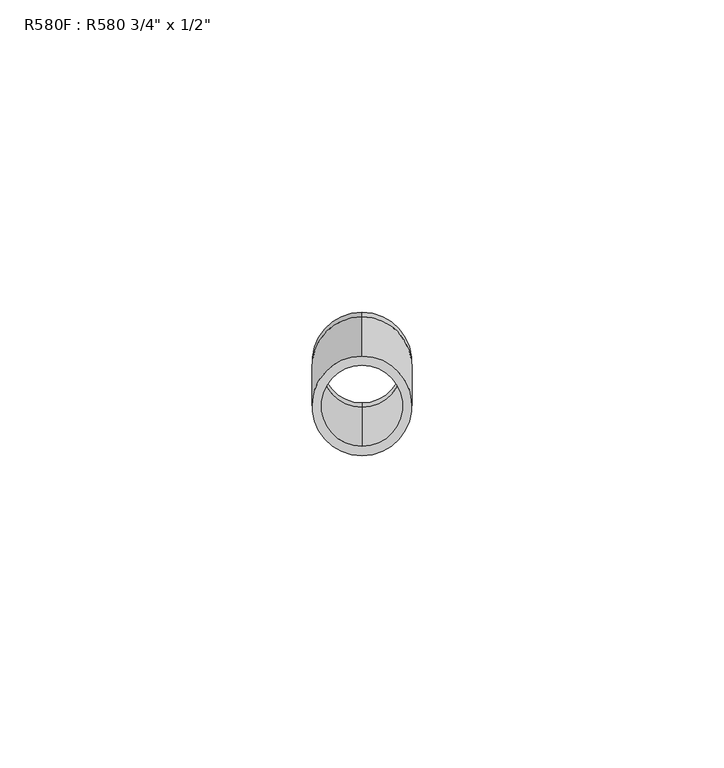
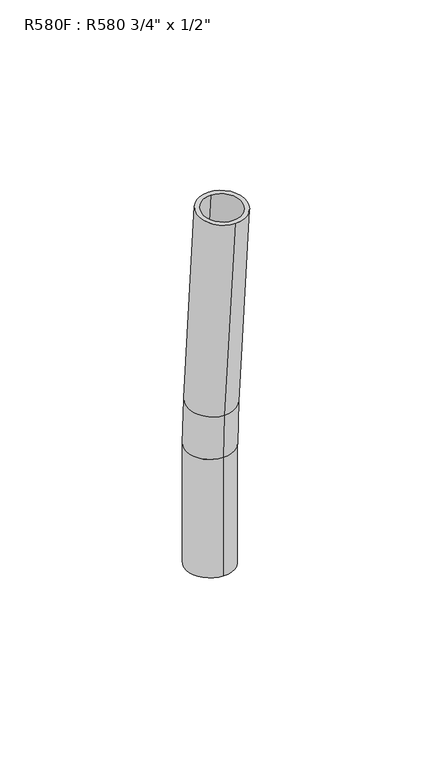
"""IFC4 building model written with IfcOpenShell, lengths in millimetres: proxy geometry."""

import ifcopenshell
import ifcopenshell.guid

model = None  # the IFC model being written
_history = None  # IfcOwnerHistory: only IFC2X3 demands one
_inside = {}  # id of a spatial element -> (the spatial element, [elements in it])
_under = {}  # id of a project, library or spatial element -> (it, [spatial elements below it])
_declared = {}  # id of a project -> (the project, [libraries it declares])
_typed = {}  # id of a type object -> (the type object, [elements of that type])
_made_of = {}  # id of a material, layer set ... -> (it, [elements and type objects made of it])


def new_model(schema):
    """Start an empty IFC model of exactly this schema.

    Asked for "IFC4X3", IfcOpenShell would pick the latest addendum, in which some entities
    have other attributes; the version numbers below select the first issue.
    IFC2X3 requires an IfcOwnerHistory on every rooted entity: one is made here for all.
    """
    global model, _history
    if schema == "IFC4X3":
        model = ifcopenshell.file(schema_version=(4, 3, 0, 0))
    else:
        model = ifcopenshell.file(schema=schema)
    _inside.clear()
    _under.clear()
    _declared.clear()
    _typed.clear()
    _made_of.clear()
    _history = None
    if model.schema == "IFC2X3":
        org = make("IfcOrganization", Name="unknown")
        user = make(
            "IfcPersonAndOrganization",
            ThePerson=make("IfcPerson", FamilyName="unknown"),
            TheOrganization=org,
        )
        app = make(
            "IfcApplication",
            ApplicationDeveloper=org,
            Version="unknown",
            ApplicationFullName="unknown",
            ApplicationIdentifier="unknown",
        )
        _history = make(
            "IfcOwnerHistory",
            OwningUser=user,
            OwningApplication=app,
            ChangeAction="ADDED",
            CreationDate=0,
        )
    return model


def make(cls, **values):
    """One entity of the class cls with the attributes given. An attribute that is None is left unset."""
    return model.create_entity(
        cls, **{name: value for name, value in values.items() if value is not None}
    )


def rooted(cls, **values):
    """An entity with a GlobalId (a new one), such as an element, a storey or a relation."""
    return make(cls, GlobalId=ifcopenshell.guid.new(), OwnerHistory=_history, **values)


def si_unit(unit_type, name, prefix=None):
    """IfcSIUnit, for example si_unit("LENGTHUNIT", "METRE", prefix="MILLI")."""
    return make("IfcSIUnit", UnitType=unit_type, Prefix=prefix, Name=name)


def assignment(units):
    """IfcUnitAssignment: the units of a project."""
    return None if units is None else make("IfcUnitAssignment", Units=units)


def point(xyz):
    """IfcCartesianPoint."""
    return None if xyz is None else make("IfcCartesianPoint", Coordinates=xyz)


def direction(xyz):
    """IfcDirection."""
    return None if xyz is None else make("IfcDirection", DirectionRatios=xyz)


def frame(location, z_axis=None, x_axis=None):
    """IfcAxis2Placement3D, a coordinate frame: its origin and axes. An axis left out is left unset."""
    return make(
        "IfcAxis2Placement3D",
        Location=point(location),
        Axis=direction(z_axis),
        RefDirection=direction(x_axis),
    )


def origin():
    """The frame at (0, 0, 0) with its axes left unset."""
    return frame((0.0, 0.0, 0.0))


def place(relative_to, where):
    """IfcLocalPlacement: puts the frame where relative to a parent placement (None: the world)."""
    return make(
        "IfcLocalPlacement", PlacementRelTo=relative_to, RelativePlacement=where
    )


def context(
    kind, dimensions, precision=None, world=None, true_north=None, identifier=None
):
    """IfcGeometricRepresentationContext, for example the 3D "Model" context."""
    return make(
        "IfcGeometricRepresentationContext",
        ContextIdentifier=identifier,
        ContextType=kind,
        CoordinateSpaceDimension=dimensions,
        Precision=precision,
        WorldCoordinateSystem=world,
        TrueNorth=true_north,
    )


def project(units=None, contexts=None):
    """IfcProject with its units and contexts."""
    return rooted(
        "IfcProject",
        Name="project",
        RepresentationContexts=contexts,
        UnitsInContext=assignment(units),
    )


def spatial(cls, under=None, at=None, **own):
    """A site, building, storey or space (cls), placed at a placement, below another one or the project."""
    s = rooted(cls, ObjectPlacement=at, **own)
    if under is not None:
        _under.setdefault(under.id(), (under, []))[1].append(s)
    return s


def polyline(points):
    """IfcPolyline through the points."""
    return make("IfcPolyline", Points=[point(p) for p in points])


def circle_curve(where, radius):
    """IfcCircle in the frame where."""
    return make("IfcCircle", Position=where, Radius=radius)


def ellipse_curve(where, semi_axis1, semi_axis2):
    """IfcEllipse in the frame where."""
    return make(
        "IfcEllipse", Position=where, SemiAxis1=semi_axis1, SemiAxis2=semi_axis2
    )


def trimmed(basis, trim1, trim2, sense, master):
    """IfcTrimmedCurve: the piece of a basis curve between two trims."""
    return make(
        "IfcTrimmedCurve",
        BasisCurve=basis,
        Trim1=trim1,
        Trim2=trim2,
        SenseAgreement=sense,
        MasterRepresentation=master,
    )


def shape(context_of_items, identifier, shape_type, items):
    """IfcShapeRepresentation: the items that make up one representation, for example the "Body"."""
    return make(
        "IfcShapeRepresentation",
        ContextOfItems=context_of_items,
        RepresentationIdentifier=identifier,
        RepresentationType=shape_type,
        Items=items,
    )


def source(mapping_origin, context_of_items, identifier, shape_type, items):
    """IfcRepresentationMap: a shape defined once, which mapped items show again and again."""
    return make(
        "IfcRepresentationMap",
        MappingOrigin=mapping_origin,
        MappedRepresentation=shape(context_of_items, identifier, shape_type, items),
    )


def transform(
    local_origin,
    x_axis=None,
    y_axis=None,
    z_axis=None,
    scale=None,
    scale2=None,
    scale3=None,
    uniform=True,
):
    """IfcCartesianTransformationOperator3D, or its non-uniform kind. x_axis, y_axis, z_axis: its Axis1, 2, 3."""
    if uniform:
        return make(
            "IfcCartesianTransformationOperator3D",
            Axis1=direction(x_axis),
            Axis2=direction(y_axis),
            LocalOrigin=point(local_origin),
            Scale=scale,
            Axis3=direction(z_axis),
        )
    return make(
        "IfcCartesianTransformationOperator3DnonUniform",
        Axis1=direction(x_axis),
        Axis2=direction(y_axis),
        LocalOrigin=point(local_origin),
        Scale=scale,
        Axis3=direction(z_axis),
        Scale2=scale2,
        Scale3=scale3,
    )


def mapped(mapping_source, mapping_target):
    """IfcMappedItem: shows the shape of a source again, moved by a transform."""
    return make(
        "IfcMappedItem", MappingSource=mapping_source, MappingTarget=mapping_target
    )


def made_of(thing, what):
    """Note that an element or type object is made of a material, layer set ...; save() writes the relation."""
    if what is not None:
        _made_of.setdefault(what.id(), (what, []))[1].append(thing)
    return thing


def element(
    cls,
    number,
    at=None,
    inside=None,
    cuts=None,
    type_object=None,
    material=None,
    context=None,
    identifier="Body",
    shape_type=None,
    held_by="IfcProductDefinitionShape",
    body=None,
    shapes=None,
    **own,
):
    """One element of the class cls, such as IfcWall. Its Tag is "e" and its number.

    at: its placement. inside: the storey or other place that contains it. cuts: it is an
    opening in that element (IfcRelVoidsElement). A single representation is given by context,
    identifier, shape_type and body (its items); several are given by shapes. held_by: the class
    of the entity that holds the representations. save() writes the other relations.
    """
    e = rooted(cls, Tag="e%d" % number, ObjectPlacement=at, **own)
    if body is not None:
        shapes = [shape(context, identifier, shape_type, body)]
    if shapes is not None:
        e.Representation = make(held_by, Representations=shapes)
    if inside is not None:
        _inside.setdefault(inside.id(), (inside, []))[1].append(e)
    if cuts is not None:
        rooted(
            "IfcRelVoidsElement", RelatingBuildingElement=cuts, RelatedOpeningElement=e
        )
    if type_object is not None:
        _typed.setdefault(type_object.id(), (type_object, []))[1].append(e)
    return made_of(e, material)


def aggregate(whole, parts):
    """IfcRelAggregates: a whole, such as a stair, and the parts it consists of."""
    return rooted("IfcRelAggregates", RelatingObject=whole, RelatedObjects=parts)


def save(model, path):
    """Write the relations noted so far, then the file.

    IfcRelAggregates (storeys below a building ...), IfcRelContainedInSpatialStructure (elements
    in a storey), IfcRelDefinesByType, IfcRelAssociatesMaterial and IfcRelDeclares: one each for
    every whole, place, type object, material and project.
    """
    for whole, parts in _under.values():
        aggregate(whole, parts)
    for where, things in _inside.values():
        rooted(
            "IfcRelContainedInSpatialStructure",
            RelatedElements=things,
            RelatingStructure=where,
        )
    for kind, things in _typed.values():
        rooted("IfcRelDefinesByType", RelatedObjects=things, RelatingType=kind)
    for what, things in _made_of.values():
        rooted("IfcRelAssociatesMaterial", RelatedObjects=things, RelatingMaterial=what)
    for by, libraries in _declared.values():
        rooted("IfcRelDeclares", RelatingContext=by, RelatedDefinitions=libraries)
    model.write(path)


def plane_surface(at):
    """IfcPlane: the flat surface through the origin of the frame at, square to its z axis."""
    return make("IfcPlane", Position=at)


def cylinder_surface(at, radius):
    """IfcCylindricalSurface: all points at the distance radius from the z axis of the frame at."""
    return make("IfcCylindricalSurface", Position=at, Radius=radius)


def revolved_surface(curve, axis_point, axis_direction):
    """IfcSurfaceOfRevolution: the curve turned about the line through axis_point along axis_direction."""
    return make(
        "IfcSurfaceOfRevolution",
        SweptCurve=make("IfcArbitraryOpenProfileDef", ProfileType="CURVE", Curve=curve),
        AxisPosition=make("IfcAxis1Placement", Location=point(axis_point), Axis=direction(axis_direction)),
    )


def advanced_brep(points, edges, surfaces, faces):
    """IfcAdvancedBrep: a solid bounded by faces that lie on surfaces and meet in shared edges.

    An edge is (start, end): straight between two places in points (the first is 0);
    or (start, end, curve); or (start, end, curve, False) where it runs against its curve.
    A face is (place in surfaces, loops), or (place, loops, False) where it looks against
    its surface's normal. A loop lists edges by number (the first is 1), with a minus sign
    where the edge is run from its end to its start. The first loop is the outer one.
    """
    corners = [point(p) for p in points]
    vertices = [make("IfcVertexPoint", VertexGeometry=c) for c in corners]
    made = []
    for start, end, *more in edges:
        made.append(
            make(
                "IfcEdgeCurve",
                EdgeStart=vertices[start],
                EdgeEnd=vertices[end],
                EdgeGeometry=more[0] if more else make("IfcPolyline", Points=[corners[start], corners[end]]),
                SameSense=more[1] if len(more) > 1 else True,
            )
        )
    hull = []
    for where, loops, *sense in faces:
        bounds = []
        for j, loop in enumerate(loops):
            ring = [make("IfcOrientedEdge", EdgeElement=made[abs(k) - 1], Orientation=k > 0) for k in loop]
            bounds.append(
                make(
                    "IfcFaceOuterBound" if j == 0 else "IfcFaceBound",
                    Bound=make("IfcEdgeLoop", EdgeList=ring),
                    Orientation=True,
                )
            )
        hull.append(make("IfcAdvancedFace", Bounds=bounds, FaceSurface=surfaces[where], SameSense=sense[0] if sense else True))
    return make("IfcAdvancedBrep", Outer=make("IfcClosedShell", CfsFaces=hull))


def proxy_d326d624(model_context):
    return source(origin(), model_context, "Body", "AdvancedBrep", [
        advanced_brep(
        [(175.2418354, -6.410503, 3.6992363), (175.2418354, -22.410503, 3.6992363), (175.2418354, -7.910503, 3.6992363), (175.2418354, -20.910503, 3.6992363), (175.2418354, -6.410503, 45.6643346), (175.2418354, -22.410503, 45.6643346), (175.2418354, -7.910503, 45.6643346), (175.2418354, -20.910503, 45.6643346), (175.2418354, -23.0806632, 61.0135247), (175.2418354, -7.141548, 62.4080166), (175.2418354, -21.5863711, 61.1442583), (175.2418354, -8.63584, 62.277283), (175.2418354, -13.4220263, 134.194212), (175.2418354, -29.3611415, 132.7997201), (175.2418354, -14.9163183, 134.0634784), (175.2418354, -27.8668494, 132.9304538)],
        [
            (0, 1, circle_curve(frame((175.2418354, -14.410503, 3.6992363), z_axis=(0.0, 0.0, -1.0), x_axis=(0.0, -1.0, 0.0)), 8.0)),
            (1, 0, circle_curve(frame((175.2418354, -14.410503, 3.6992363), z_axis=(0.0, 0.0, -1.0), x_axis=(0.0, -1.0, 0.0)), 8.0)),
            (2, 3, circle_curve(frame((175.2418354, -14.410503, 3.6992363), z_axis=(0.0, 0.0, 1.0), x_axis=(0.0, -1.0, 0.0)), 6.5)),
            (3, 2, circle_curve(frame((175.2418354, -14.410503, 3.6992363), z_axis=(0.0, 0.0, 1.0), x_axis=(0.0, -1.0, 0.0)), 6.5)),
            (0, 4),
            (4, 5, circle_curve(frame((175.2418354, -14.410503, 45.6643346), z_axis=(0.0, 0.0, -1.0), x_axis=(0.0, -1.0, 0.0)), 8.0)),
            (5, 1),
            (5, 4, circle_curve(frame((175.2418354, -14.410503, 45.6643346), z_axis=(0.0, 0.0, -1.0), x_axis=(0.0, -1.0, 0.0)), 8.0)),
            (2, 6),
            (6, 7, circle_curve(frame((175.2418354, -14.410503, 45.6643346), z_axis=(0.0, 0.0, 1.0), x_axis=(0.0, -1.0, 0.0)), 6.5)),
            (7, 3),
            (7, 6, circle_curve(frame((175.2418354, -14.410503, 45.6643346), z_axis=(0.0, 0.0, 1.0), x_axis=(0.0, -1.0, 0.0)), 6.5)),
            (8, 5, circle_curve(frame((175.2418354, -198.5227087, 45.6643346), z_axis=(-1.0, 0.0, 0.0), x_axis=(0.0, 1.0, 0.0)), 176.1122057)),
            (4, 9, circle_curve(frame((175.2418354, -198.5227087, 45.6643346), z_axis=(1.0, 0.0, 0.0), x_axis=(0.0, 1.0, 0.0)), 192.1122057)),
            (9, 8, circle_curve(frame((175.2418354, -15.1111056, 61.7107706), z_axis=(0.0, 0.08715574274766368, -0.996194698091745), x_axis=(0.0, -0.996194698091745, -0.08715574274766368)), 8.0)),
            (8, 9, circle_curve(frame((175.2418354, -15.1111056, 61.7107706), z_axis=(0.0, 0.08715574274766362, -0.996194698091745), x_axis=(0.0, -0.996194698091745, -0.08715574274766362)), 8.0)),
            (10, 7, circle_curve(frame((175.2418354, -198.5227087, 45.6643346), z_axis=(-1.0, 0.0, 0.0), x_axis=(0.0, 1.0, 0.0)), 177.6122057)),
            (6, 11, circle_curve(frame((175.2418354, -198.5227087, 45.6643346), z_axis=(1.0, 0.0, 0.0), x_axis=(0.0, 1.0, 0.0)), 190.6122057)),
            (11, 10, circle_curve(frame((175.2418354, -15.1111056, 61.7107706), z_axis=(0.0, -0.0871557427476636, 0.996194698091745), x_axis=(0.0, -0.996194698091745, -0.0871557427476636)), 6.5)),
            (10, 11, circle_curve(frame((175.2418354, -15.1111056, 61.7107706), z_axis=(0.0, -0.08715574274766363, 0.996194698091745), x_axis=(0.0, -0.996194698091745, -0.08715574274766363)), 6.5)),
            (12, 13, circle_curve(frame((175.2418354, -21.3915839, 133.4969661), z_axis=(0.0, -0.08715574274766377, 0.9961946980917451), x_axis=(0.0, -0.9961946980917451, -0.08715574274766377)), 8.0)),
            (13, 12, circle_curve(frame((175.2418354, -21.3915839, 133.4969661), z_axis=(0.0, -0.08715574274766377, 0.9961946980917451), x_axis=(0.0, -0.9961946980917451, -0.08715574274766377)), 8.0)),
            (14, 15, circle_curve(frame((175.2418354, -21.3915839, 133.4969661), z_axis=(0.0, 0.08715574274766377, -0.9961946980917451), x_axis=(0.0, -0.9961946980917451, -0.08715574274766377)), 6.5)),
            (15, 14, circle_curve(frame((175.2418354, -21.3915839, 133.4969661), z_axis=(0.0, 0.08715574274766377, -0.9961946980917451), x_axis=(0.0, -0.9961946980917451, -0.08715574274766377)), 6.5)),
            (9, 12),
            (13, 8),
            (11, 14),
            (15, 10),
        ],
        [
            plane_surface(frame((175.2418354, -14.410503, 3.6992363), z_axis=(0.0, 0.0, -1.0), x_axis=(1.0, 0.0, 0.0))),
            cylinder_surface(frame((175.2418354, -14.410503, 3.6992363), z_axis=(0.0, 0.0, -1.0), x_axis=(0.0, -1.0, 0.0)), 8.0),
            revolved_surface(polyline([(175.2418354, -20.910503, 45.6643346), (175.2418354, -20.910503, 3.6992363)]), (175.2418354, -14.410503, 3.6992363), (0.0, 0.0, 1.0)),
            revolved_surface(trimmed(ellipse_curve(frame((175.2418354, -14.410503, 45.6643346), z_axis=(0.0, 0.0, -1.0), x_axis=(0.0, -1.0, 0.0)), 8.0, 8.0), [point((175.2418354, -6.410503, 45.6643346))], [point((175.2418354, -22.410503, 45.6643346))], True, "CARTESIAN"), (175.2418354, -198.5227087, 45.6643346), (1.0, 0.0, 0.0)),
            revolved_surface(trimmed(ellipse_curve(frame((175.2418354, -14.410503, 45.6643346), z_axis=(0.0, 0.0, -1.0), x_axis=(0.0, -1.0, 0.0)), 8.0, 8.0), [point((175.2418354, -22.410503, 45.6643346))], [point((175.2418354, -6.410503, 45.6643346))], True, "CARTESIAN"), (175.2418354, -198.5227087, 45.6643346), (1.0, 0.0, 0.0)),
            revolved_surface(trimmed(ellipse_curve(frame((175.2418354, -14.410503, 45.6643346), z_axis=(0.0, 0.0, 1.0), x_axis=(0.0, -1.0, 0.0)), 6.5, 6.5), [point((175.2418354, -7.910503, 45.6643346))], [point((175.2418354, -20.910503, 45.6643346))], True, "CARTESIAN"), (175.2418354, -198.5227087, 45.6643346), (1.0, 0.0, 0.0)),
            revolved_surface(trimmed(ellipse_curve(frame((175.2418354, -14.410503, 45.6643346), z_axis=(0.0, 0.0, 1.0), x_axis=(0.0, -1.0, 0.0)), 6.5, 6.5), [point((175.2418354, -20.910503, 45.6643346))], [point((175.2418354, -7.910503, 45.6643346))], True, "CARTESIAN"), (175.2418354, -198.5227087, 45.6643346), (1.0, 0.0, 0.0)),
            plane_surface(frame((175.2418354, -21.3915839, 133.4969661), z_axis=(0.0, -0.08715574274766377, 0.9961946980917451), x_axis=(1.0, 0.0, 0.0))),
            cylinder_surface(frame((175.2418354, -15.1111056, 61.7107706), z_axis=(0.0, 0.08715574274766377, -0.9961946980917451), x_axis=(0.0, -0.9961946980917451, -0.08715574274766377)), 8.0),
            revolved_surface(polyline([(175.2418354, -27.8668494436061, 132.930453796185), (175.2418354, -21.586371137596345, 61.144258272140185)]), (175.2418354, -15.1111056, 61.7107706), (0.0, -0.08715574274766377, 0.9961946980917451)),
        ],
        [
            (0, [[1, 2], [3, 4]]),
            (1, [[-1, 5, 6, 7]]),
            (1, [[-2, -7, 8, -5]]),
            (2, [[-3, 9, 10, 11]]),
            (2, [[-4, -11, 12, -9]]),
            (3, [[13, -6, 14, 15]]),
            (4, [[-14, -8, -13, 16]]),
            (5, [[17, -10, 18, 19]]),
            (6, [[-18, -12, -17, 20]]),
            (7, [[21, 22], [23, 24]]),
            (8, [[-15, 25, -22, 26]]),
            (8, [[-16, -26, -21, -25]]),
            (9, [[-19, 27, -24, 28]]),
            (9, [[-20, -28, -23, -27]]),
        ],
    ),
    ])


if __name__ == "__main__":
    model = new_model("IFC4")
    model_context = context("Model", 3, world=origin())
    ifc_project = project(units=[si_unit("LENGTHUNIT", "METRE", prefix="MILLI")], contexts=[model_context])
    site = spatial("IfcSite", under=ifc_project)
    building = spatial("IfcBuilding", under=site)
    placement = place(None, origin())
    proxy_shape = proxy_d326d624(model_context)
    element("IfcBuildingElementProxy", 1, Name="R580F : R580 3/4\" x 1/2\"", ObjectType="R580F : R580 3/4\" x 1/2\"", at=placement, inside=building, context=model_context, shape_type="MappedRepresentation", body=[
        mapped(proxy_shape, transform((0.0, 0.0, 0.0), x_axis=(1.0, 0.0, 0.0), y_axis=(0.0, 1.0, 0.0), z_axis=(0.0, 0.0, 1.0))),
    ])
    save(model, "model.ifc")
